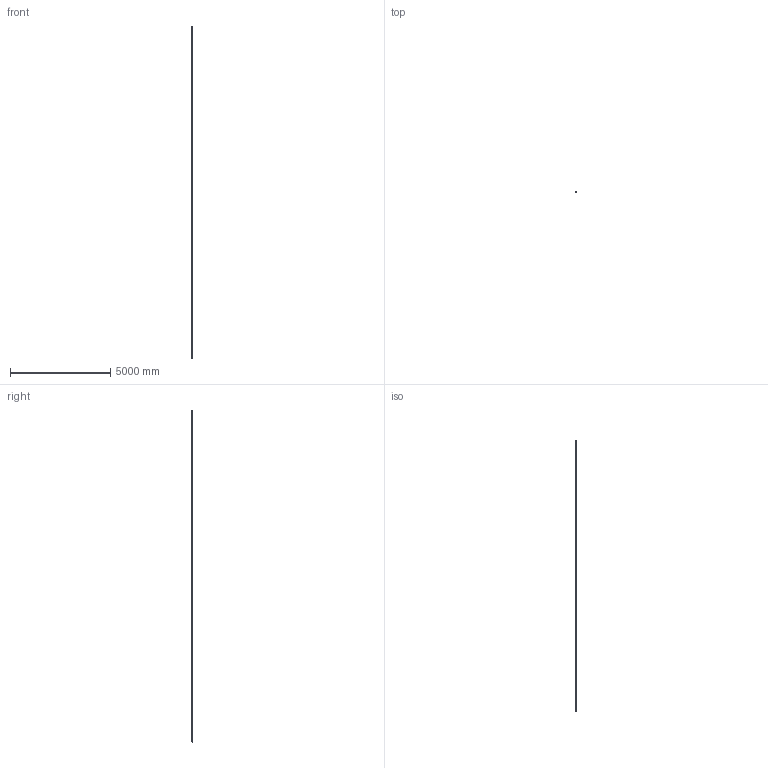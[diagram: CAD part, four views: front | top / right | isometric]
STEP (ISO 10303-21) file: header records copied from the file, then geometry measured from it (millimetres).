
FILE_DESCRIPTION(('Creo Elements/Direct Modeling STEP Export'),'2;1');
FILE_NAME('L-162.stp','2011-11-29T13:23:01',(''),(''),'Creo Elements/Direct Modeling STEP processor for AP214 (Solid Model)','Creo Elements/Direct Modeling 17.0C 05-Feb-2011 (C) Parametric Technology GmbH','');
FILE_SCHEMA(('AUTOMOTIVE_DESIGN { 1 0 10303 214 1 1 1 1 }'));
Length unit declared in the file: millimetre
Products named in the file (5): Modulo_izq_(L-KT); Modulos_intermedio_(FL-14).2; CABEZA; Modulo_der_(22-ET); L-162
Assembly tree (12 placements, depth 2):
  L-162
    Modulos_intermedio_(FL-14).2  x9
    Modulo_der_(22-ET)
    CABEZA
    Modulo_izq_(L-KT)
Bounding box: 51.5 x 87.95 x 16549.1 mm (x, y, z)
Volume: 35796660.5 mm3; surface area: 4869025.6 mm2
Topology: 33 solids, 136 shells, 7747 faces, 21526 edges, 13777 vertices
Faces by surface type: cylinder 3415, plane 2974, cone 582, torus 372, bspline 278, extrusion 100, sphere 26
Entity records: 131520 total; most frequent: CARTESIAN_POINT 38526, ORIENTED_EDGE 19626, DIRECTION 17580, EDGE_CURVE 9793, VERTEX_POINT 6351, AXIS2_PLACEMENT_3D 6261, VECTOR 5058, LINE 5038
